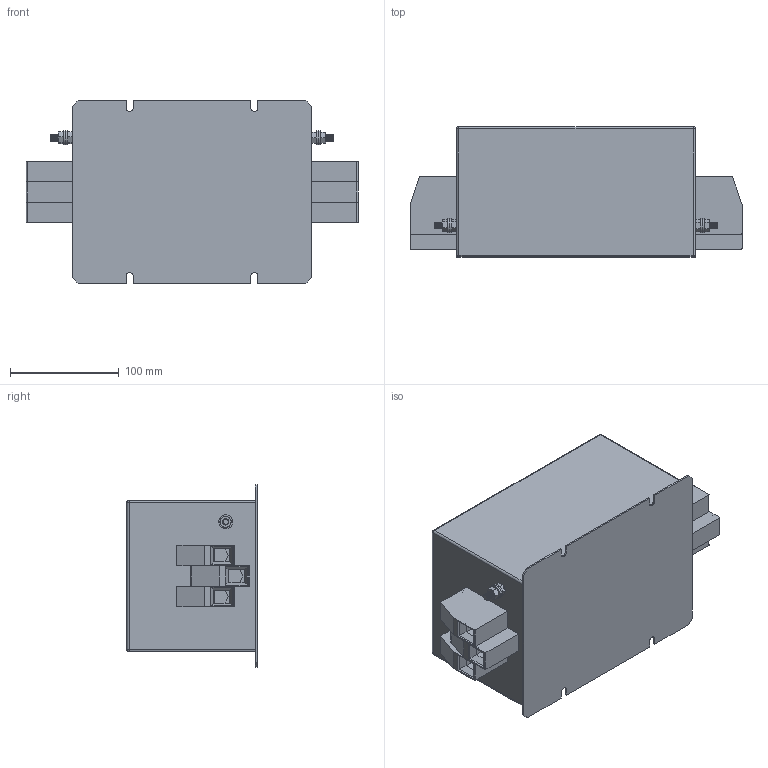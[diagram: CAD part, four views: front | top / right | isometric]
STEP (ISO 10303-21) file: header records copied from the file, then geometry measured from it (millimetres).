
FILE_DESCRIPTION (( 'STEP AP203' ), '1' );
FILE_NAME ('NF-110-FTK.STEP', '2024-04-18T15:33:48', ( '' ), ( '' ), 'SwSTEP 2.0', 'SolidWorks 2017', '' );
FILE_SCHEMA (( 'CONFIG_CONTROL_DESIGN' ));
Length unit declared in the file: millimetre
Products named in the file (7): flat washer narrow_am_B18.22M - Plain washer, 6 mm, narrow; hex screw_am_B18.6.7M - M6 x 1.0 x 16 Indented HHMS --16S; HDFK-50; M6x16 Earth post; hex nut style 1_am_B18.2.4.1M - Hex nut, Style 1,  M6 x 1 --D-N; NF-110-FTK
Assembly tree (13 placements, depth 3):
  NF-110-FTK
    NF-110-FTK
    M6x16 Earth post  x2
      flat washer narrow_am_B18.22M - Plain washer, 6 mm, narrow
      hex nut style 1_am_B18.2.4.1M - Hex nut, Style 1,  M6 x 1 --D-N
      hex screw_am_B18.6.7M - M6 x 1.0 x 16 Indented HHMS --16S
    HDFK-50  x6
Bounding box: 306.01 x 120 x 168 mm (x, y, z)
Volume: 3899983.1 mm3; surface area: 311184.1 mm2
Topology: 16 solids, 16 shells, 718 faces, 1738 edges, 1100 vertices
Faces by surface type: plane 366, cylinder 180, cone 168, sphere 4
Entity records: 8779 total; most frequent: CARTESIAN_POINT 1499, DIRECTION 1422, ORIENTED_EDGE 1280, EDGE_CURVE 640, AXIS2_PLACEMENT_3D 541, VERTEX_POINT 402, VECTOR 340, LINE 340
